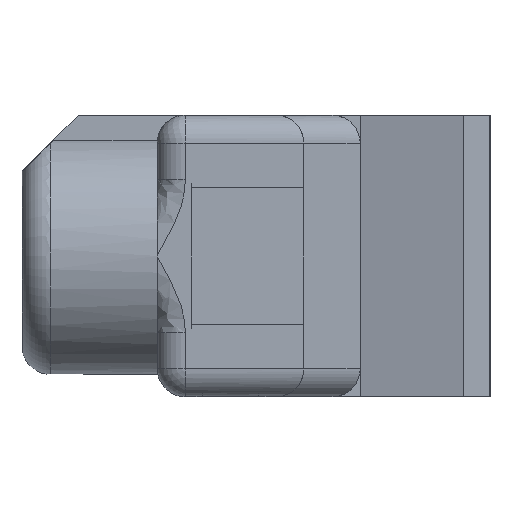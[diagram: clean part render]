
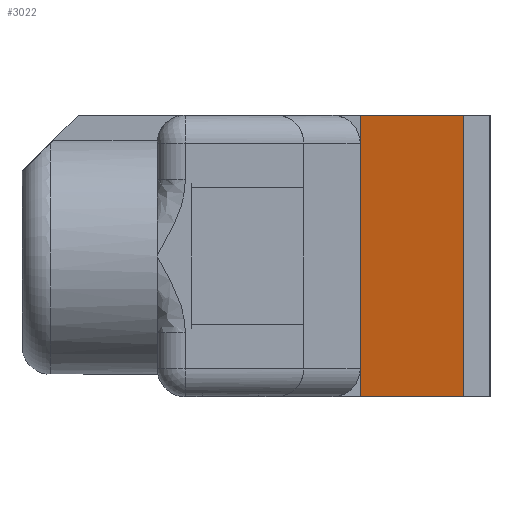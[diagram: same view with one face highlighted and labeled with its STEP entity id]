
A CAD part, left-side view. The second image highlights one B-rep face of the part: STEP entity #3022.
In plain terms, the highlighted planar face has unit normal (-0.966, 0.259, 0).
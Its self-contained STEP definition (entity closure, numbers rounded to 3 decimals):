
#266=FACE_OUTER_BOUND('',#440,.T.);
#440=EDGE_LOOP('',(#2699,#2700,#2701,#2702));
#504=LINE('',#4148,#848);
#608=LINE('',#4642,#952);
#824=LINE('',#5138,#1168);
#825=LINE('',#5140,#1169);
#848=VECTOR('',#3291,10.);
#952=VECTOR('',#3533,10.);
#1168=VECTOR('',#4039,10.);
#1169=VECTOR('',#4042,10.);
#1195=VERTEX_POINT('',#4145);
#1196=VERTEX_POINT('',#4147);
#1320=VERTEX_POINT('',#4639);
#1321=VERTEX_POINT('',#4641);
#1474=EDGE_CURVE('',#1195,#1196,#504,.T.);
#1633=EDGE_CURVE('',#1320,#1321,#608,.T.);
#1878=EDGE_CURVE('',#1320,#1196,#824,.T.);
#1879=EDGE_CURVE('',#1321,#1195,#825,.T.);
#2699=ORIENTED_EDGE('',*,*,#1633,.F.);
#2700=ORIENTED_EDGE('',*,*,#1878,.T.);
#2701=ORIENTED_EDGE('',*,*,#1474,.F.);
#2702=ORIENTED_EDGE('',*,*,#1879,.F.);
#2861=PLANE('',#3255);
#3022=ADVANCED_FACE('',(#266),#2861,.T.);
#3255=AXIS2_PLACEMENT_3D('',#5139,#4040,#4041);
#3291=DIRECTION('',(-0.259,-0.966,0.));
#3533=DIRECTION('',(0.259,0.966,0.));
#4039=DIRECTION('',(0.,0.,1.));
#4040=DIRECTION('center_axis',(-0.966,0.259,0.));
#4041=DIRECTION('ref_axis',(-0.259,-0.966,0.));
#4042=DIRECTION('',(0.,0.,1.));
#4145=CARTESIAN_POINT('',(-1.648,0.,5.));
#4147=CARTESIAN_POINT('',(-2.141,-1.84,5.));
#4148=CARTESIAN_POINT('',(-2.141,-1.84,5.));
#4639=CARTESIAN_POINT('',(-2.141,-1.84,0.));
#4641=CARTESIAN_POINT('',(-1.648,0.,0.));
#4642=CARTESIAN_POINT('',(-2.141,-1.84,0.));
#5138=CARTESIAN_POINT('',(-2.141,-1.84,0.));
#5139=CARTESIAN_POINT('Origin',(-1.648,0.,0.));
#5140=CARTESIAN_POINT('',(-1.648,0.,0.));
